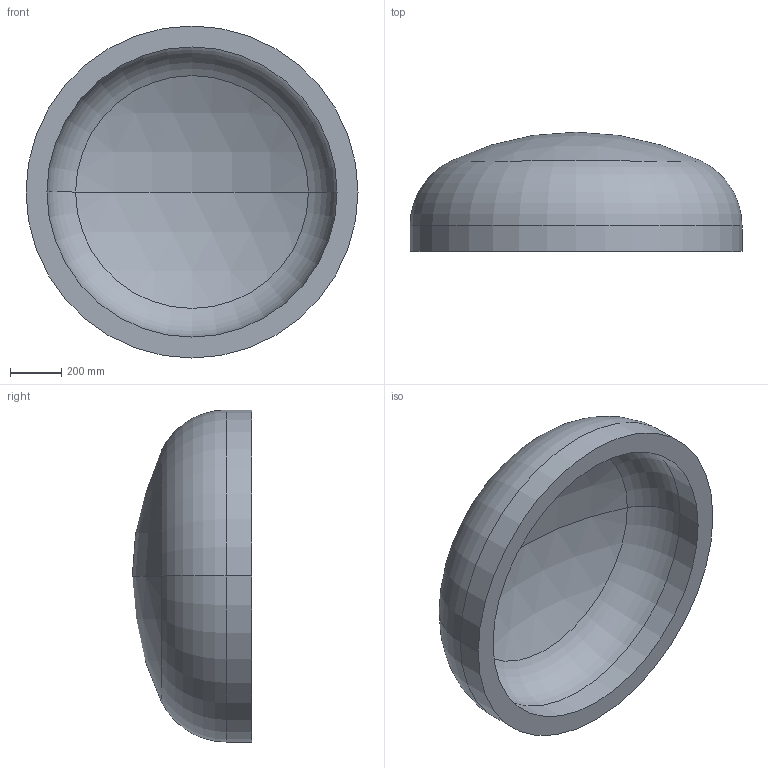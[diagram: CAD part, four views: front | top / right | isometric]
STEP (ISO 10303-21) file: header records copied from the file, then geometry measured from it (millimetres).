
FILE_DESCRIPTION (( 'STEP AP203' ), '1' );
FILE_NAME ('DIN 28013 Korbbogenform_-_Boden DIN 28013 - 1300 x 100 - I - s=82.step', '2016-07-01T09:59:19', ( '' ), ( '' ), 'SwSTEP 2.0', 'SolidWorks 2013', '' );
FILE_SCHEMA (( 'CONFIG_CONTROL_DESIGN' ));
Length unit declared in the file: millimetre
Products named in the file (1): DIN 28013 Korbbogenform_-_Boden DIN 28013 - 1300 x 100 - I - s=82
Bounding box: 1300 x 466.9 x 1300 mm (x, y, z)
Volume: 170472125.8 mm3; surface area: 4485708.2 mm2
Topology: 1 solids, 1 shells, 13 faces, 24 edges, 14 vertices
Faces by surface type: torus 4, cylinder 4, sphere 4, plane 1
Entity records: 407 total; most frequent: DIRECTION 72, CARTESIAN_POINT 52, ORIENTED_EDGE 48, AXIS2_PLACEMENT_3D 34, EDGE_CURVE 24, CIRCLE 20, EDGE_LOOP 14, VERTEX_POINT 14
